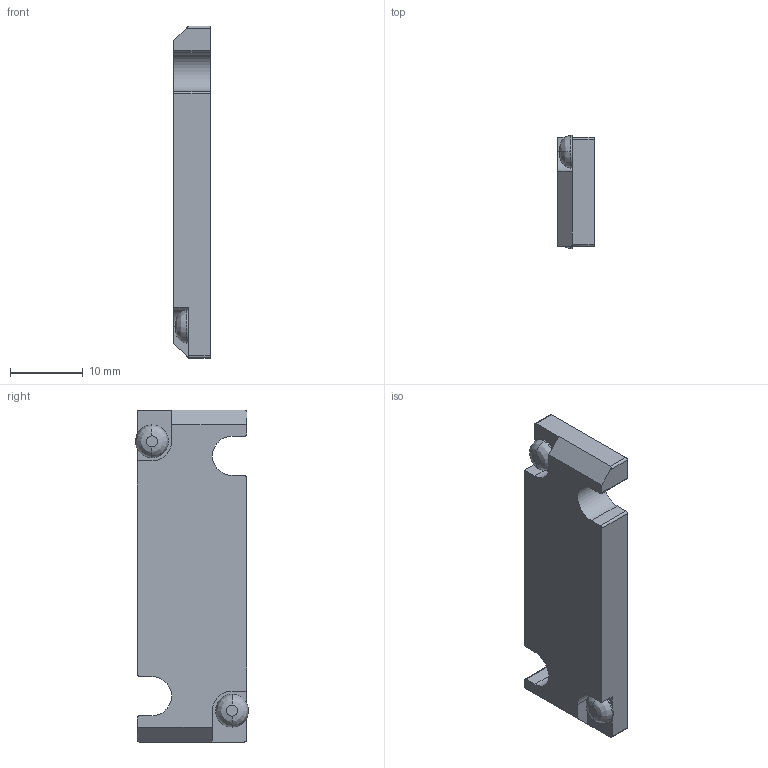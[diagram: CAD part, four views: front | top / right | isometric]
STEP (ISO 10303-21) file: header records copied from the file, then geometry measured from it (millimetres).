
FILE_DESCRIPTION( (''), '2;1');
FILE_NAME ('CVICAD02.12824.F10-PP_5182.stp','2020-09-01T14:07:06',(''),(''),'spGate 12.6.6','','');
FILE_SCHEMA (('AUTOMOTIVE_DESIGN'));
Length unit declared in the file: millimetre
Bounding box: 5 x 15.5 x 45.6 mm (x, y, z)
Volume: 3072.8 mm3; surface area: 1943.9 mm2
Topology: 1 solids, 1 shells, 44 faces, 116 edges, 74 vertices
Faces by surface type: plane 24, cylinder 16, bspline 4
Entity records: 2383 total; most frequent: CARTESIAN_POINT 356, ORIENTED_EDGE 232, DIRECTION 224, COLOUR_RGB 161, PRESENTATION_STYLE_ASSIGNMENT 161, STYLED_ITEM 161, EDGE_CURVE 116, DRAUGHTING_PRE_DEFINED_CURVE_FONT 116
